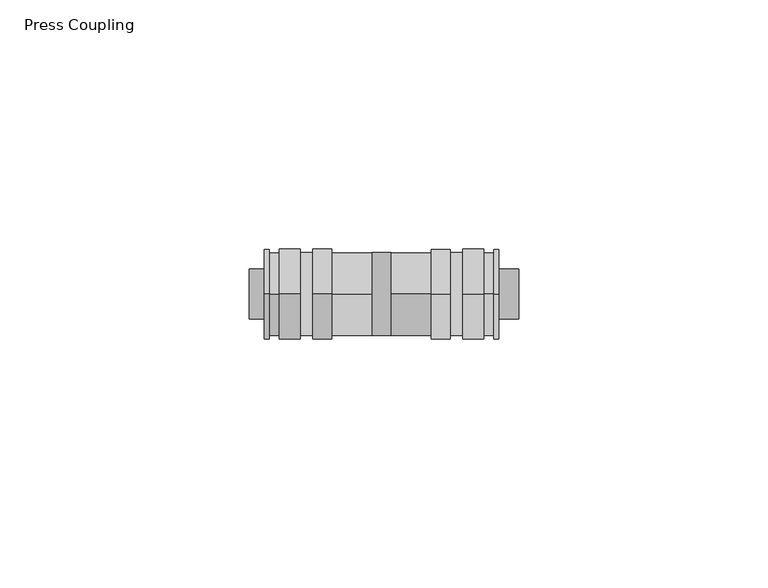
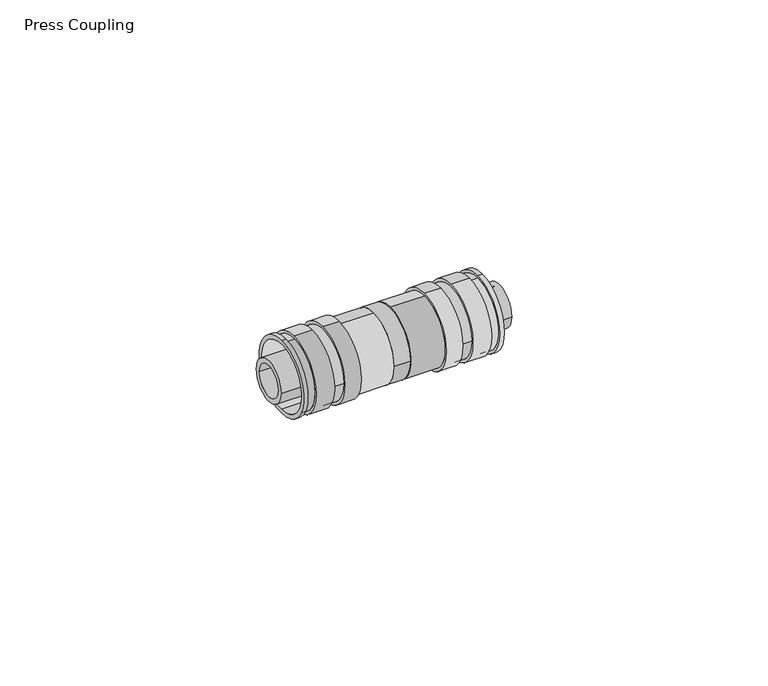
"""IFC4 building model written with IfcOpenShell, lengths in millimetres: pipe fitting geometry, Press Coupling : Superpipe Press Coupling."""

from ifc_helpers import new_model, si_unit, point, frame, frame_2d, origin, place, context, project, spatial, polyline, circle_curve, trimmed, segment, composite_curve, outline, extrude, source, transform, mapped, element, save
from ifc_brep_helpers import plane_surface, cylinder_surface, revolved_surface, advanced_brep


def press_coupling_d68e36af(model_context):
    return source(origin(), model_context, "Body", "SolidModel", [
        advanced_brep(
        [(50.0, 0.0, -9.0), (50.0, 0.0, 9.0), (50.0, 0.0, -8.0), (50.0, 0.0, 8.0), (28.5, 0.0, -8.3), (28.5, 0.0, 8.3), (28.5, 0.0, -8.0), (28.5, 0.0, 8.0), (49.0, 0.0, -9.0), (49.0, 0.0, 9.0), (47.0, 0.0, 9.0), (47.0, 0.0, -9.0), (42.75, 0.0, -9.0), (42.75, 9.0, 0.0), (42.75, 0.0, 9.0), (40.25, 9.0, 0.0), (40.25, 0.0, -9.0), (36.5, 0.0, -9.0), (36.5, 0.0, 9.0), (40.25, 0.0, 9.0), (42.75, -9.0, 0.0), (40.25, -9.0, 0.0), (47.0, 0.0, 8.3), (47.0, 0.0, -8.3), (49.0, 0.0, 8.3), (49.0, 0.0, -8.3), (42.75, 8.3, 0.0), (42.75, -8.3, 0.0), (40.25, 8.3, 0.0), (40.25, -8.3, 0.0), (36.5, 0.0, -8.3), (36.5, 0.0, 8.3)],
        [
            (0, 1, circle_curve(frame((50.0, 0.0, 0.0), z_axis=(1.0, 0.0, 0.0), x_axis=(0.0, 0.0, 1.0)), 9.0)),
            (1, 0, circle_curve(frame((50.0, 0.0, 0.0), z_axis=(1.0, 0.0, 0.0), x_axis=(0.0, 0.0, 1.0)), 9.0)),
            (2, 3, circle_curve(frame((50.0, 0.0, 0.0), z_axis=(-1.0, 0.0, 0.0), x_axis=(0.0, 0.0, 1.0)), 8.0)),
            (3, 2, circle_curve(frame((50.0, 0.0, 0.0), z_axis=(-1.0, 0.0, 0.0), x_axis=(0.0, 0.0, 1.0)), 8.0)),
            (4, 5, circle_curve(frame((28.5, 0.0, 0.0), z_axis=(-1.0, 0.0, 0.0), x_axis=(0.0, 0.0, 1.0)), 8.3)),
            (5, 4, circle_curve(frame((28.5, 0.0, 0.0), z_axis=(-1.0, 0.0, 0.0), x_axis=(0.0, 0.0, 1.0)), 8.3)),
            (6, 7, circle_curve(frame((28.5, 0.0, 0.0), z_axis=(1.0, 0.0, 0.0), x_axis=(0.0, 0.0, 1.0)), 8.0)),
            (7, 6, circle_curve(frame((28.5, 0.0, 0.0), z_axis=(1.0, 0.0, 0.0), x_axis=(0.0, 0.0, 1.0)), 8.0)),
            (0, 8),
            (8, 9, circle_curve(frame((49.0, 0.0, 0.0), z_axis=(1.0, 0.0, 0.0), x_axis=(0.0, 0.0, 1.0)), 9.0)),
            (9, 1),
            (10, 11, circle_curve(frame((47.0, 0.0, 0.0), z_axis=(-1.0, 0.0, 0.0), x_axis=(0.0, 0.0, 1.0)), 9.0)),
            (11, 12),
            (12, 13, circle_curve(frame((42.75, 0.0, 0.0), z_axis=(1.0, 0.0, 0.0), x_axis=(0.0, 0.0, 1.0)), 9.0)),
            (13, 14, circle_curve(frame((42.75, 0.0, 0.0), z_axis=(1.0, 0.0, 0.0), x_axis=(0.0, 0.0, 1.0)), 9.0)),
            (14, 10),
            (15, 16, circle_curve(frame((40.25, 0.0, 0.0), z_axis=(-1.0, 0.0, 0.0), x_axis=(0.0, 0.0, 1.0)), 9.0)),
            (16, 17),
            (17, 18, circle_curve(frame((36.5, 0.0, 0.0), z_axis=(1.0, 0.0, 0.0), x_axis=(0.0, 0.0, 1.0)), 9.0)),
            (18, 19),
            (19, 15, circle_curve(frame((40.25, 0.0, 0.0), z_axis=(-1.0, 0.0, 0.0), x_axis=(0.0, 0.0, 1.0)), 9.0)),
            (9, 8, circle_curve(frame((49.0, 0.0, 0.0), z_axis=(1.0, 0.0, 0.0), x_axis=(0.0, 0.0, 1.0)), 9.0)),
            (11, 10, circle_curve(frame((47.0, 0.0, 0.0), z_axis=(-1.0, 0.0, 0.0), x_axis=(0.0, 0.0, 1.0)), 9.0)),
            (14, 20, circle_curve(frame((42.75, 0.0, 0.0), z_axis=(1.0, 0.0, 0.0), x_axis=(0.0, 0.0, 1.0)), 9.0)),
            (20, 12, circle_curve(frame((42.75, 0.0, 0.0), z_axis=(1.0, 0.0, 0.0), x_axis=(0.0, 0.0, 1.0)), 9.0)),
            (16, 21, circle_curve(frame((40.25, 0.0, 0.0), z_axis=(-1.0, 0.0, 0.0), x_axis=(0.0, 0.0, 1.0)), 9.0)),
            (21, 19, circle_curve(frame((40.25, 0.0, 0.0), z_axis=(-1.0, 0.0, 0.0), x_axis=(0.0, 0.0, 1.0)), 9.0)),
            (18, 17, circle_curve(frame((36.5, 0.0, 0.0), z_axis=(1.0, 0.0, 0.0), x_axis=(0.0, 0.0, 1.0)), 9.0)),
            (2, 6),
            (7, 3),
            (22, 23, circle_curve(frame((47.0, 0.0, 0.0), z_axis=(-1.0, 0.0, 0.0), x_axis=(0.0, 0.0, -1.0)), 8.3)),
            (23, 22, circle_curve(frame((47.0, 0.0, 0.0), z_axis=(-1.0, 0.0, 0.0), x_axis=(0.0, 0.0, -1.0)), 8.3)),
            (24, 25, circle_curve(frame((49.0, 0.0, 0.0), z_axis=(1.0, 0.0, 0.0), x_axis=(0.0, 0.0, -1.0)), 8.3)),
            (25, 24, circle_curve(frame((49.0, 0.0, 0.0), z_axis=(1.0, 0.0, 0.0), x_axis=(0.0, 0.0, -1.0)), 8.3)),
            (23, 25),
            (24, 22),
            (26, 27, circle_curve(frame((42.75, 0.0, 0.0), z_axis=(1.0, 0.0, 0.0), x_axis=(0.0, -1.0, 0.0)), 8.3)),
            (27, 26, circle_curve(frame((42.75, 0.0, 0.0), z_axis=(1.0, 0.0, 0.0), x_axis=(0.0, -1.0, 0.0)), 8.3)),
            (28, 29, circle_curve(frame((40.25, 0.0, 0.0), z_axis=(-1.0, 0.0, 0.0), x_axis=(0.0, -1.0, 0.0)), 8.3)),
            (29, 28, circle_curve(frame((40.25, 0.0, 0.0), z_axis=(-1.0, 0.0, 0.0), x_axis=(0.0, -1.0, 0.0)), 8.3)),
            (26, 28),
            (29, 27),
            (30, 31, circle_curve(frame((36.5, 0.0, 0.0), z_axis=(1.0, 0.0, 0.0), x_axis=(0.0, 0.0, 1.0)), 8.3)),
            (31, 30, circle_curve(frame((36.5, 0.0, 0.0), z_axis=(1.0, 0.0, 0.0), x_axis=(0.0, 0.0, 1.0)), 8.3)),
            (31, 5),
            (4, 30),
        ],
        [
            plane_surface(frame((50.0, 0.0, 9.0), z_axis=(1.0, 0.0, 0.0), x_axis=(0.0, -1.0, 0.0))),
            plane_surface(frame((28.5, 0.0, 9.0), z_axis=(-1.0, 0.0, 0.0), x_axis=(0.0, 1.0, 0.0))),
            cylinder_surface(frame((28.5, 0.0, 0.0), z_axis=(1.0, 0.0, 0.0), x_axis=(0.0, 0.0, 1.0)), 9.0),
            revolved_surface(polyline([(28.5, 0.0, 8.0), (50.0, 0.0, 8.0)]), (28.5, 0.0, 0.0), (-1.0, 0.0, 0.0)),
            plane_surface(frame((47.0, 0.0, -9.0), z_axis=(1.0, 0.0, 0.0), x_axis=(0.0, -1.0, 0.0))),
            plane_surface(frame((49.0, 0.0, -9.0), z_axis=(-1.0, 0.0, 0.0), x_axis=(0.0, 1.0, 0.0))),
            cylinder_surface(frame((50.0, 0.0, 0.0), z_axis=(1.0, 0.0, 0.0), x_axis=(0.0, 0.0, -1.0)), 8.3),
            plane_surface(frame((42.75, -9.0, 0.0), z_axis=(-1.0, 0.0, 0.0), x_axis=(0.0, 0.0, -1.0))),
            plane_surface(frame((40.25, -9.0, 0.0), z_axis=(1.0, 0.0, 0.0), x_axis=(0.0, 0.0, 1.0))),
            cylinder_surface(frame((40.25, 0.0, 0.0), z_axis=(1.0, 0.0, 0.0), x_axis=(0.0, -1.0, 0.0)), 8.3),
            plane_surface(frame((36.5, 0.0, 9.0), z_axis=(-1.0, 0.0, 0.0), x_axis=(0.0, -1.0, 0.0))),
            cylinder_surface(frame((28.5, 0.0, 0.0), z_axis=(-1.0, 0.0, 0.0), x_axis=(0.0, 0.0, 1.0)), 8.3),
        ],
        [
            (0, [[1, 2], [3, 4]]),
            (1, [[5, 6], [7, 8]]),
            (2, [[-1, 9, 10, 11]]),
            (2, [[12, 13, 14, 15, 16]]),
            (2, [[17, 18, 19, 20, 21]]),
            (2, [[-2, -11, 22, -9]]),
            (2, [[23, -16, 24, 25, -13]]),
            (2, [[26, 27, -20, 28, -18]]),
            (3, [[-3, 29, -8, 30]]),
            (3, [[-4, -30, -7, -29]]),
            (4, [[-12, -23], [31, 32]]),
            (5, [[-10, -22], [33, 34]]),
            (6, [[-32, 35, -33, 36]]),
            (6, [[-31, -36, -34, -35]]),
            (7, [[-14, -25, -24, -15], [37, 38]]),
            (8, [[-17, -21, -27, -26], [39, 40]]),
            (9, [[-37, 41, -40, 42]]),
            (9, [[-38, -42, -39, -41]]),
            (10, [[-19, -28], [43, 44]]),
            (11, [[-44, 45, -5, 46]]),
            (11, [[-43, -46, -6, -45]]),
        ],
    ),
        advanced_brep(
        [(3.0, 0.0, -9.0), (3.0, 0.0, 9.0), (3.0, 0.0, -8.0), (3.0, 0.0, 8.0), (24.5, 0.0, -8.3), (24.5, 0.0, 8.3), (24.5, 0.0, -8.0), (24.5, 0.0, 8.0), (4.0, 0.0, -9.0), (4.0, 0.0, 9.0), (6.0, 0.0, 9.0), (6.0, 0.0, -9.0), (10.25, 0.0, -9.0), (10.25, -9.0, 0.0), (10.25, 0.0, 9.0), (16.5, 0.0, -9.0), (16.5, 0.0, 9.0), (12.75, 0.0, 9.0), (12.75, -9.0, 0.0), (12.75, 0.0, -9.0), (10.25, 9.0, 0.0), (12.75, 9.0, 0.0), (6.0, 0.0, 8.3), (6.0, 0.0, -8.3), (4.0, 0.0, 8.3), (4.0, 0.0, -8.3), (16.5, 0.0, -8.3), (16.5, 0.0, 8.3), (10.25, 8.3, 0.0), (10.25, -8.3, 0.0), (12.75, 8.3, 0.0), (12.75, -8.3, 0.0)],
        [
            (0, 1, circle_curve(frame((3.0, 0.0, 0.0), z_axis=(-1.0, 0.0, 0.0), x_axis=(0.0, 0.0, 1.0)), 9.0)),
            (1, 0, circle_curve(frame((3.0, 0.0, 0.0), z_axis=(-1.0, 0.0, 0.0), x_axis=(0.0, 0.0, 1.0)), 9.0)),
            (2, 3, circle_curve(frame((3.0, 0.0, 0.0), z_axis=(1.0, 0.0, 0.0), x_axis=(0.0, 0.0, 1.0)), 8.0)),
            (3, 2, circle_curve(frame((3.0, 0.0, 0.0), z_axis=(1.0, 0.0, 0.0), x_axis=(0.0, 0.0, 1.0)), 8.0)),
            (4, 5, circle_curve(frame((24.5, 0.0, 0.0), z_axis=(1.0, 0.0, 0.0), x_axis=(0.0, 0.0, 1.0)), 8.3)),
            (5, 4, circle_curve(frame((24.5, 0.0, 0.0), z_axis=(1.0, 0.0, 0.0), x_axis=(0.0, 0.0, 1.0)), 8.3)),
            (6, 7, circle_curve(frame((24.5, 0.0, 0.0), z_axis=(-1.0, 0.0, 0.0), x_axis=(0.0, 0.0, 1.0)), 8.0)),
            (7, 6, circle_curve(frame((24.5, 0.0, 0.0), z_axis=(-1.0, 0.0, 0.0), x_axis=(0.0, 0.0, 1.0)), 8.0)),
            (0, 8),
            (8, 9, circle_curve(frame((4.0, 0.0, 0.0), z_axis=(-1.0, 0.0, 0.0), x_axis=(0.0, 0.0, 1.0)), 9.0)),
            (9, 1),
            (10, 11, circle_curve(frame((6.0, 0.0, 0.0), z_axis=(1.0, 0.0, 0.0), x_axis=(0.0, 0.0, 1.0)), 9.0)),
            (11, 12),
            (12, 13, circle_curve(frame((10.25, 0.0, 0.0), z_axis=(-1.0, 0.0, 0.0), x_axis=(0.0, 0.0, 1.0)), 9.0)),
            (13, 14, circle_curve(frame((10.25, 0.0, 0.0), z_axis=(-1.0, 0.0, 0.0), x_axis=(0.0, 0.0, 1.0)), 9.0)),
            (14, 10),
            (15, 16, circle_curve(frame((16.5, 0.0, 0.0), z_axis=(-1.0, 0.0, 0.0), x_axis=(0.0, 0.0, 1.0)), 9.0)),
            (16, 17),
            (17, 18, circle_curve(frame((12.75, 0.0, 0.0), z_axis=(1.0, 0.0, 0.0), x_axis=(0.0, 0.0, 1.0)), 9.0)),
            (18, 19, circle_curve(frame((12.75, 0.0, 0.0), z_axis=(1.0, 0.0, 0.0), x_axis=(0.0, 0.0, 1.0)), 9.0)),
            (19, 15),
            (9, 8, circle_curve(frame((4.0, 0.0, 0.0), z_axis=(-1.0, 0.0, 0.0), x_axis=(0.0, 0.0, 1.0)), 9.0)),
            (11, 10, circle_curve(frame((6.0, 0.0, 0.0), z_axis=(1.0, 0.0, 0.0), x_axis=(0.0, 0.0, 1.0)), 9.0)),
            (14, 20, circle_curve(frame((10.25, 0.0, 0.0), z_axis=(-1.0, 0.0, 0.0), x_axis=(0.0, 0.0, 1.0)), 9.0)),
            (20, 12, circle_curve(frame((10.25, 0.0, 0.0), z_axis=(-1.0, 0.0, 0.0), x_axis=(0.0, 0.0, 1.0)), 9.0)),
            (16, 15, circle_curve(frame((16.5, 0.0, 0.0), z_axis=(-1.0, 0.0, 0.0), x_axis=(0.0, 0.0, 1.0)), 9.0)),
            (19, 21, circle_curve(frame((12.75, 0.0, 0.0), z_axis=(1.0, 0.0, 0.0), x_axis=(0.0, 0.0, 1.0)), 9.0)),
            (21, 17, circle_curve(frame((12.75, 0.0, 0.0), z_axis=(1.0, 0.0, 0.0), x_axis=(0.0, 0.0, 1.0)), 9.0)),
            (2, 6),
            (7, 3),
            (22, 23, circle_curve(frame((6.0, 0.0, 0.0), z_axis=(1.0, 0.0, 0.0), x_axis=(0.0, 0.0, -1.0)), 8.3)),
            (23, 22, circle_curve(frame((6.0, 0.0, 0.0), z_axis=(1.0, 0.0, 0.0), x_axis=(0.0, 0.0, -1.0)), 8.3)),
            (24, 25, circle_curve(frame((4.0, 0.0, 0.0), z_axis=(-1.0, 0.0, 0.0), x_axis=(0.0, 0.0, -1.0)), 8.3)),
            (25, 24, circle_curve(frame((4.0, 0.0, 0.0), z_axis=(-1.0, 0.0, 0.0), x_axis=(0.0, 0.0, -1.0)), 8.3)),
            (23, 25),
            (24, 22),
            (26, 27, circle_curve(frame((16.5, 0.0, 0.0), z_axis=(-1.0, 0.0, 0.0), x_axis=(0.0, 0.0, 1.0)), 8.3)),
            (27, 26, circle_curve(frame((16.5, 0.0, 0.0), z_axis=(-1.0, 0.0, 0.0), x_axis=(0.0, 0.0, 1.0)), 8.3)),
            (27, 5),
            (4, 26),
            (28, 29, circle_curve(frame((10.25, 0.0, 0.0), z_axis=(-1.0, 0.0, 0.0), x_axis=(0.0, -1.0, 0.0)), 8.3)),
            (29, 28, circle_curve(frame((10.25, 0.0, 0.0), z_axis=(-1.0, 0.0, 0.0), x_axis=(0.0, -1.0, 0.0)), 8.3)),
            (30, 31, circle_curve(frame((12.75, 0.0, 0.0), z_axis=(1.0, 0.0, 0.0), x_axis=(0.0, -1.0, 0.0)), 8.3)),
            (31, 30, circle_curve(frame((12.75, 0.0, 0.0), z_axis=(1.0, 0.0, 0.0), x_axis=(0.0, -1.0, 0.0)), 8.3)),
            (29, 31),
            (30, 28),
        ],
        [
            plane_surface(frame((3.0, 0.0, 9.0), z_axis=(-1.0, 0.0, 0.0), x_axis=(0.0, 1.0, 0.0))),
            plane_surface(frame((24.5, 0.0, 9.0), z_axis=(1.0, 0.0, 0.0), x_axis=(0.0, -1.0, 0.0))),
            cylinder_surface(frame((24.5, 0.0, 0.0), z_axis=(-1.0, 0.0, 0.0), x_axis=(0.0, 0.0, 1.0)), 9.0),
            revolved_surface(polyline([(24.5, 0.0, 8.0), (3.0, 0.0, 8.0)]), (24.5, 0.0, 0.0), (1.0, 0.0, 0.0)),
            plane_surface(frame((6.0, 0.0, -9.0), z_axis=(-1.0, 0.0, 0.0), x_axis=(0.0, 1.0, 0.0))),
            plane_surface(frame((4.0, 0.0, -9.0), z_axis=(1.0, 0.0, 0.0), x_axis=(0.0, -1.0, 0.0))),
            cylinder_surface(frame((3.0, 0.0, 0.0), z_axis=(-1.0, 0.0, 0.0), x_axis=(0.0, 0.0, -1.0)), 8.3),
            plane_surface(frame((16.5, 0.0, 9.0), z_axis=(1.0, 0.0, 0.0), x_axis=(0.0, 1.0, 0.0))),
            cylinder_surface(frame((24.5, 0.0, 0.0), z_axis=(1.0, 0.0, 0.0), x_axis=(0.0, 0.0, 1.0)), 8.3),
            plane_surface(frame((10.25, -9.0, 0.0), z_axis=(1.0, 0.0, 0.0), x_axis=(0.0, 0.0, 1.0))),
            plane_surface(frame((12.75, -9.0, 0.0), z_axis=(-1.0, 0.0, 0.0), x_axis=(0.0, 0.0, -1.0))),
            cylinder_surface(frame((12.75, 0.0, 0.0), z_axis=(1.0, 0.0, 0.0), x_axis=(0.0, -1.0, 0.0)), 8.3),
        ],
        [
            (0, [[1, 2], [3, 4]]),
            (1, [[5, 6], [7, 8]]),
            (2, [[-1, 9, 10, 11]]),
            (2, [[12, 13, 14, 15, 16]]),
            (2, [[17, 18, 19, 20, 21]]),
            (2, [[-2, -11, 22, -9]]),
            (2, [[23, -16, 24, 25, -13]]),
            (2, [[26, -21, 27, 28, -18]]),
            (3, [[-3, 29, -8, 30]]),
            (3, [[-4, -30, -7, -29]]),
            (4, [[-12, -23], [31, 32]]),
            (5, [[-10, -22], [33, 34]]),
            (6, [[-32, 35, -33, 36]]),
            (6, [[-31, -36, -34, -35]]),
            (7, [[-17, -26], [37, 38]]),
            (8, [[-38, 39, -5, 40]]),
            (8, [[-37, -40, -6, -39]]),
            (9, [[-14, -25, -24, -15], [41, 42]]),
            (10, [[-20, -19, -28, -27], [43, 44]]),
            (11, [[-42, 45, -43, 46]]),
            (11, [[-41, -46, -44, -45]]),
        ],
    ),
        extrude(outline(composite_curve([segment(trimmed(circle_curve(frame_2d((-0.000673, 0.0)), 5.0), [point((-5.000673, 0.0))], [point((4.999327, 0.0))], False, "CARTESIAN"), True, "CONTINUOUS"), segment(trimmed(circle_curve(frame_2d((-0.000673, 0.0)), 5.0), [point((4.999327, 0.0))], [point((-5.000673, 0.0))], False, "CARTESIAN"), True, "CONTINUOUS")], self_intersect=False), holes=[composite_curve([segment(trimmed(circle_curve(frame_2d((-0.000673, 0.0)), 3.8), [point((3.799327, 0.0))], [point((-3.800673, 0.0))], True, "CARTESIAN"), True, "CONTINUOUS"), segment(trimmed(circle_curve(frame_2d((-0.000673, 0.0)), 3.8), [point((-3.800673, 0.0))], [point((3.799327, 0.0))], True, "CARTESIAN"), True, "CONTINUOUS")], self_intersect=False)]), frame((28.5, 0.0, 0.0), z_axis=(1.0, 0.0, 0.0), x_axis=(0.0, 1.0, 0.0)), (0.0, 0.0, 1.0), 25.5),
        extrude(outline(composite_curve([segment(trimmed(circle_curve(frame_2d((-0.000673, 0.0)), 5.0), [point((-5.000673, 0.0))], [point((4.999327, 0.0))], False, "CARTESIAN"), True, "CONTINUOUS"), segment(trimmed(circle_curve(frame_2d((-0.000673, 0.0)), 5.0), [point((4.999327, 0.0))], [point((-5.000673, 0.0))], False, "CARTESIAN"), True, "CONTINUOUS")], self_intersect=False), holes=[composite_curve([segment(trimmed(circle_curve(frame_2d((-0.000673, 0.0)), 3.8), [point((3.799327, 0.0))], [point((-3.800673, 0.0))], True, "CARTESIAN"), True, "CONTINUOUS"), segment(trimmed(circle_curve(frame_2d((-0.000673, 0.0)), 3.8), [point((-3.800673, 0.0))], [point((3.799327, 0.0))], True, "CARTESIAN"), True, "CONTINUOUS")], self_intersect=False)]), frame((0.0, 0.0, 0.0), z_axis=(1.0, 0.0, 0.0), x_axis=(0.0, 1.0, 0.0)), (0.0, 0.0, 1.0), 24.5),
        extrude(outline(composite_curve([segment(trimmed(circle_curve(frame_2d((-0.000673, 0.0)), 8.3), [point((-8.300673, 0.0))], [point((8.299327, 0.0))], False, "CARTESIAN"), True, "CONTINUOUS"), segment(trimmed(circle_curve(frame_2d((-0.000673, 0.0)), 8.3), [point((8.299327, 0.0))], [point((-8.300673, 0.0))], False, "CARTESIAN"), True, "CONTINUOUS")], self_intersect=False), holes=[composite_curve([segment(trimmed(circle_curve(frame_2d((-0.000673, 0.0)), 3.8), [point((3.799327, 0.0))], [point((-3.800673, 0.0))], True, "CARTESIAN"), True, "CONTINUOUS"), segment(trimmed(circle_curve(frame_2d((-0.000673, 0.0)), 3.8), [point((-3.800673, 0.0))], [point((3.799327, 0.0))], True, "CARTESIAN"), True, "CONTINUOUS")], self_intersect=False)]), frame((24.5, 0.0, 0.0), z_axis=(1.0, 0.0, 0.0), x_axis=(0.0, 1.0, 0.0)), (0.0, 0.0, 1.0), 4.0),
    ])


if __name__ == "__main__":
    model = new_model("IFC4")
    model_context = context("Model", 3, world=origin())
    ifc_project = project(units=[si_unit("LENGTHUNIT", "METRE", prefix="MILLI")], contexts=[model_context])
    site = spatial("IfcSite", under=ifc_project)
    building = spatial("IfcBuilding", under=site)
    placement = place(None, origin())
    press_coupling_shape = press_coupling_d68e36af(model_context)
    element("IfcPipeFitting", 1, ObjectType="Press Coupling : Superpipe Press Coupling", at=placement, inside=building, context=model_context, shape_type="MappedRepresentation", body=[
        mapped(press_coupling_shape, transform((0.0, 0.0, 0.0), x_axis=(1.0, 0.0, 0.0), y_axis=(0.0, 1.0, 0.0), z_axis=(0.0, 0.0, 1.0))),
    ])
    save(model, "model.ifc")
